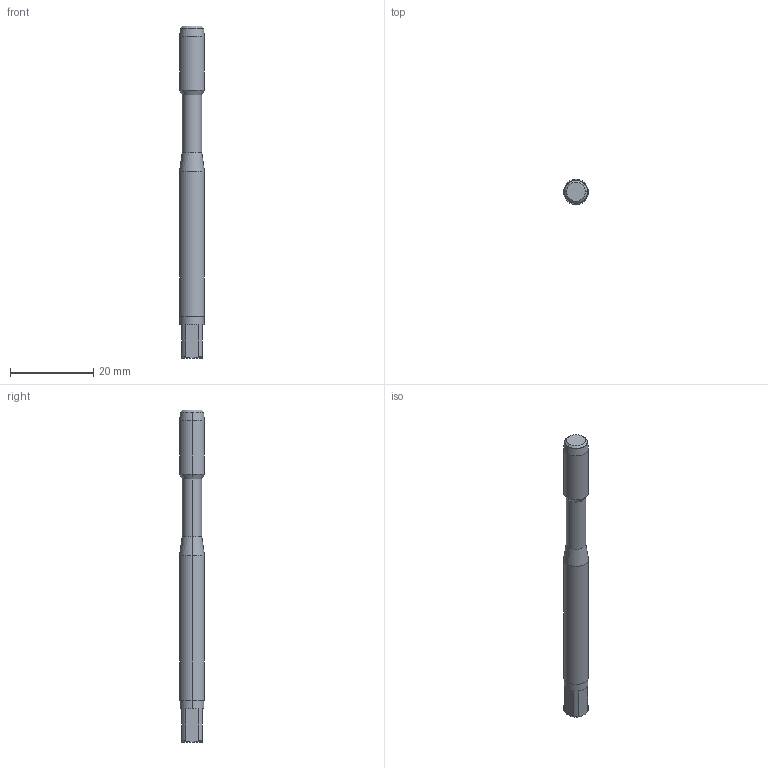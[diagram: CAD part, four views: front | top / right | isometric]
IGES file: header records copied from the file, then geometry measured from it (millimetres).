
Start section: 3D InterOp IGES (v. 2020 1.0.1), Spatial Corp. Copyright (c) 1999-2017.
Global section: file name: WZG32130_6.igs; native system: Spatial Corp.; preprocessor: 3D InterOp GENERIC/IGES 3.0; author: Noname; organization: Noname; date: 20210125.100011; units: metre
Bounding box: 6 x 6 x 80 mm (x, y, z)
Surface area: 1473 mm2 (no closed solid volume)
Topology: 0 solids, 0 shells, 32 faces, 148 edges, 148 vertices
Faces by surface type: revolution 22, extrusion 10
